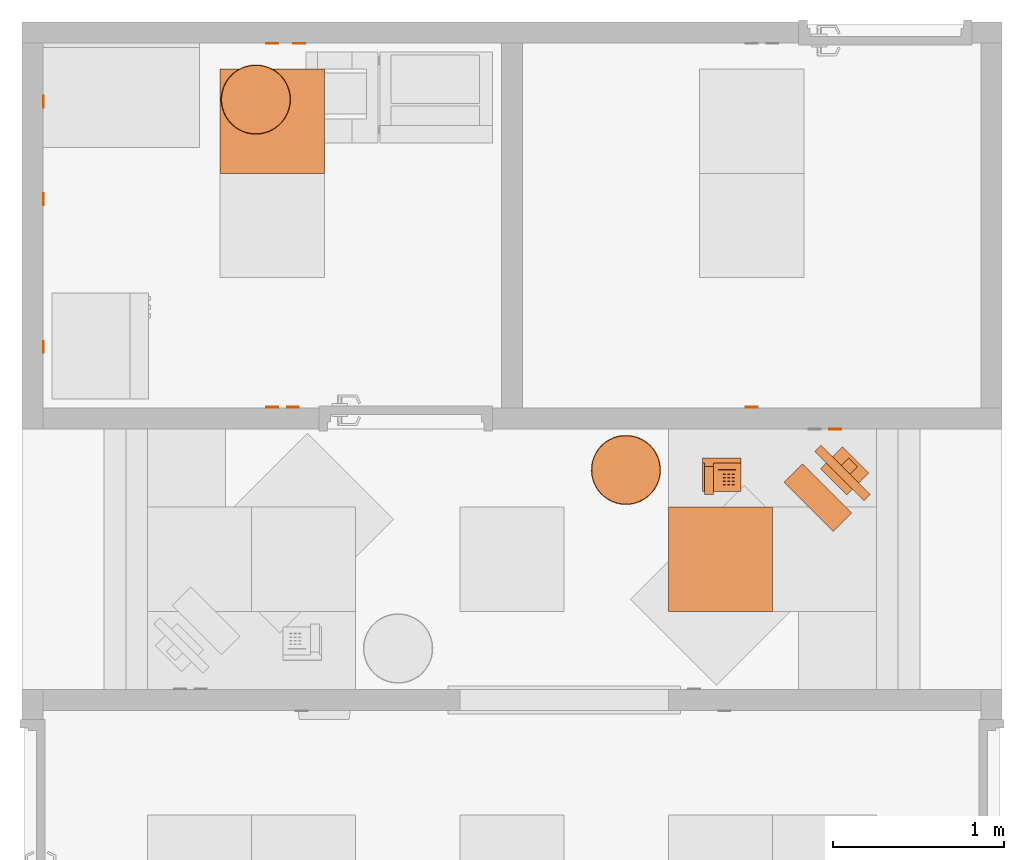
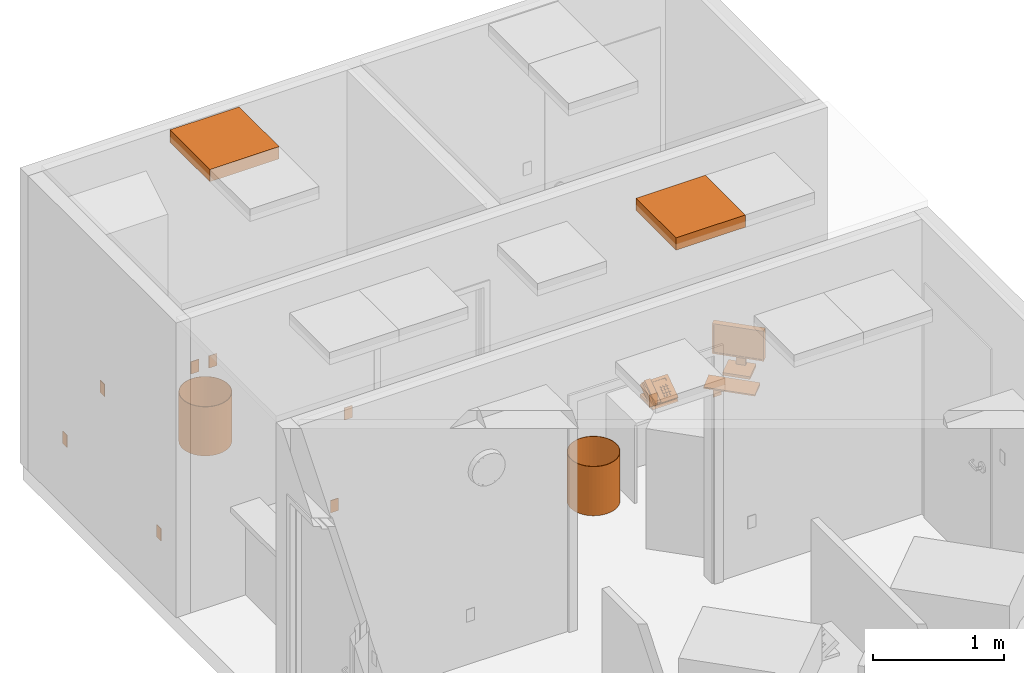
# One storey, part 17 of 20: 15 proxies.
"""IFC2X3 building model written with IfcOpenShell, lengths in feet."""

from ifc_helpers import new_model, entity, si_unit, converted_unit, derived_unit, direction, frame, frame_2d, origin, origin_2d_with_axis, place, context, subcontext, project, spatial, rectangle, circle, hollow_circle, extrude, faceted_brep, source, transform, mapped, type_object, type_shapes, element, save


model = new_model("IFC2X3")

# Units and contexts
model_context = context("Model", 3, precision=0.0001, world=origin(), true_north=direction((6.12303176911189e-17, 1.0)))
body_context = subcontext(model_context, "Body", "Model", "MODEL_VIEW")
ifc_project = project(units=[converted_unit("LENGTHUNIT", "FOOT", entity("IfcRatioMeasure", 0.3048), si_unit("LENGTHUNIT", "METRE"), dimensions=[1, 0, 0, 0, 0, 0, 0]), converted_unit("AREAUNIT", "SQUARE FOOT", entity("IfcRatioMeasure", 0.09290304), si_unit("AREAUNIT", "SQUARE_METRE"), dimensions=[2, 0, 0, 0, 0, 0, 0]), converted_unit("VOLUMEUNIT", "CUBIC FOOT", entity("IfcRatioMeasure", 0.028316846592), si_unit("VOLUMEUNIT", "CUBIC_METRE"), dimensions=[3, 0, 0, 0, 0, 0, 0]), converted_unit("PLANEANGLEUNIT", "DEGREE", entity("IfcRatioMeasure", 0.0174532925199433), si_unit("PLANEANGLEUNIT", "RADIAN"), dimensions=[0, 0, 0, 0, 0, 0, 0]), si_unit("MASSUNIT", "GRAM", prefix="KILO"), derived_unit("MASSDENSITYUNIT", [(si_unit("MASSUNIT", "GRAM", prefix="KILO"), 1), (si_unit("LENGTHUNIT", "METRE"), -3)]), si_unit("TIMEUNIT", "SECOND"), si_unit("FREQUENCYUNIT", "HERTZ"), si_unit("THERMODYNAMICTEMPERATUREUNIT", "DEGREE_CELSIUS"), derived_unit("THERMALTRANSMITTANCEUNIT", [(si_unit("MASSUNIT", "GRAM", prefix="KILO"), 1), (si_unit("THERMODYNAMICTEMPERATUREUNIT", "KELVIN"), -1), (si_unit("TIMEUNIT", "SECOND"), -3)]), derived_unit("VOLUMETRICFLOWRATEUNIT", [(si_unit("LENGTHUNIT", "METRE"), 3), (si_unit("TIMEUNIT", "SECOND"), -1)]), si_unit("ELECTRICCURRENTUNIT", "AMPERE"), si_unit("ELECTRICVOLTAGEUNIT", "VOLT"), si_unit("POWERUNIT", "WATT"), si_unit("FORCEUNIT", "NEWTON"), si_unit("ILLUMINANCEUNIT", "LUX"), si_unit("LUMINOUSFLUXUNIT", "LUMEN"), si_unit("LUMINOUSINTENSITYUNIT", "CANDELA"), derived_unit("USERDEFINED", [(si_unit("MASSUNIT", "GRAM", prefix="KILO"), -1), (si_unit("LENGTHUNIT", "METRE"), -2), (si_unit("TIMEUNIT", "SECOND"), 3), (si_unit("LUMINOUSFLUXUNIT", "LUMEN"), 1)]), derived_unit("LINEARVELOCITYUNIT", [(si_unit("LENGTHUNIT", "METRE"), 1), (si_unit("TIMEUNIT", "SECOND"), -1)]), si_unit("PRESSUREUNIT", "PASCAL"), derived_unit("USERDEFINED", [(si_unit("LENGTHUNIT", "METRE"), -2), (si_unit("MASSUNIT", "GRAM", prefix="KILO"), 1), (si_unit("TIMEUNIT", "SECOND"), -2)])], contexts=[model_context])

# Site, building, storey, space
site_placement = place(None, origin())
site = spatial("IfcSite", under=ifc_project, at=site_placement, Name="Default", CompositionType="ELEMENT")
building_placement = place(site_placement, origin())
building = spatial("IfcBuilding", under=site, at=building_placement, Name="OUTPATIENT / PACT CLINIC (Ch. 265)", CompositionType="ELEMENT")
storey_placement = place(building_placement, origin())
storey = spatial("IfcBuildingStorey", under=building, at=storey_placement, Name="DATUM", CompositionType="ELEMENT", Elevation=0.0)
space_1_placement = place(storey_placement, origin())
space_1 = spatial("IfcSpace", under=storey, at=space_1_placement, CompositionType="ELEMENT", InteriorOrExteriorSpace="INTERNAL")

# Proxies
building_element_proxy_type_1 = type_object("IfcBuildingElementProxyType", Name="A1015 Telephone_Desk Multi-Line", PredefinedType="NOTDEFINED")
shared_shape_1 = source(origin(), body_context, "Body", "Brep", [
    faceted_brep([(0.700520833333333, 0.261320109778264, 0.451787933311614), (0.700520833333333, 0.572560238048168, 0.223329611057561), (0.700520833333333, 0.538332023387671, 0.176698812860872), (0.700520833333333, 0.629478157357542, 0.109798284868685), (0.700520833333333, 0.699689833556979, 0.205455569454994), (0.700520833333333, 0.163563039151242, 0.598968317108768), (0.700520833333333, 0.0904130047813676, 0.494499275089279), (0.700520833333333, 0.225161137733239, 0.400147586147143), (0.532645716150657, 0.261320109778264, 0.451787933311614), (0.532645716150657, 0.225161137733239, 0.400147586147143), (0.532645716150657, 0.0904130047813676, 0.494499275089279), (0.532645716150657, 0.163563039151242, 0.598968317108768), (0.532645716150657, 0.699689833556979, 0.205455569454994), (0.532645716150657, 0.629478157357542, 0.109798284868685), (0.532645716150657, 0.538332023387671, 0.176698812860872), (0.532645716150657, 0.572560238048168, 0.223329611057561)], [[[0, 1, 2, 3, 4, 5, 6, 7]], [[8, 9, 10, 11, 12, 13, 14, 15]], [[1, 0, 8, 15]], [[2, 1, 15, 14]], [[3, 2, 14, 13]], [[4, 3, 13, 12]], [[5, 4, 12, 11]], [[6, 5, 11, 10]], [[7, 6, 10, 9]], [[0, 7, 9, 8]]]),
    faceted_brep([(0.297587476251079, 0.457472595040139, 0.295395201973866), (0.344462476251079, 0.457472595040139, 0.295395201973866), (0.344462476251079, 0.49615327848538, 0.268310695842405), (0.297587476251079, 0.49615327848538, 0.268310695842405), (0.297587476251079, 0.442535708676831, 0.274063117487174), (0.297587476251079, 0.481216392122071, 0.246978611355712), (0.344462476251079, 0.481216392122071, 0.246978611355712), (0.344462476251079, 0.442535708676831, 0.274063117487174)], [[[0, 1, 2, 3]], [[4, 5, 6, 7]], [[1, 0, 4, 7]], [[2, 1, 7, 6]], [[3, 2, 6, 5]], [[0, 3, 5, 4]]]),
    faceted_brep([(0.29758747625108, 0.525735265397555, 0.247597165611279), (0.34446247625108, 0.525735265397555, 0.247597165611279), (0.34446247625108, 0.564415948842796, 0.220512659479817), (0.29758747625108, 0.564415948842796, 0.220512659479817), (0.29758747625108, 0.510798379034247, 0.226265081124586), (0.29758747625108, 0.549479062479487, 0.199180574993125), (0.34446247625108, 0.549479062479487, 0.199180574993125), (0.34446247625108, 0.510798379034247, 0.226265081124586)], [[[0, 1, 2, 3]], [[4, 5, 6, 7]], [[1, 0, 4, 7]], [[2, 1, 7, 6]], [[3, 2, 6, 5]], [[0, 3, 5, 4]]]),
    faceted_brep([(0.214254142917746, 0.525735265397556, 0.247597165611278), (0.261129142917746, 0.525735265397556, 0.247597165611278), (0.261129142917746, 0.564415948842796, 0.220512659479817), (0.214254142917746, 0.564415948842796, 0.220512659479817), (0.214254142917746, 0.510798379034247, 0.226265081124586), (0.214254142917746, 0.549479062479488, 0.199180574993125), (0.261129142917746, 0.549479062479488, 0.199180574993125), (0.261129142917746, 0.510798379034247, 0.226265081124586)], [[[0, 1, 2, 3]], [[4, 5, 6, 7]], [[1, 0, 4, 7]], [[2, 1, 7, 6]], [[3, 2, 6, 5]], [[0, 3, 5, 4]]]),
    faceted_brep([(0.130920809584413, 0.525735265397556, 0.247597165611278), (0.177795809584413, 0.525735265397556, 0.247597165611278), (0.177795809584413, 0.564415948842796, 0.220512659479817), (0.130920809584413, 0.564415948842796, 0.220512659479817), (0.130920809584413, 0.510798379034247, 0.226265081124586), (0.130920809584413, 0.549479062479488, 0.199180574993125), (0.177795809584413, 0.549479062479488, 0.199180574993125), (0.177795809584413, 0.510798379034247, 0.226265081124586)], [[[0, 1, 2, 3]], [[4, 5, 6, 7]], [[1, 0, 4, 7]], [[2, 1, 7, 6]], [[3, 2, 6, 5]], [[0, 3, 5, 4]]]),
    faceted_brep([(0.130920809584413, 0.45747259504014, 0.295395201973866), (0.177795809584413, 0.45747259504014, 0.295395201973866), (0.177795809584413, 0.496153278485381, 0.268310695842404), (0.130920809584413, 0.496153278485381, 0.268310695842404), (0.130920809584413, 0.442535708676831, 0.274063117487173), (0.130920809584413, 0.481216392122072, 0.246978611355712), (0.177795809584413, 0.481216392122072, 0.246978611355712), (0.177795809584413, 0.442535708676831, 0.274063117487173)], [[[0, 1, 2, 3]], [[4, 5, 6, 7]], [[1, 0, 4, 7]], [[2, 1, 7, 6]], [[3, 2, 6, 5]], [[0, 3, 5, 4]]]),
    faceted_brep([(0.214254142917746, 0.389209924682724, 0.343193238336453), (0.261129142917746, 0.389209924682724, 0.343193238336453), (0.261129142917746, 0.427890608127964, 0.316108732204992), (0.214254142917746, 0.427890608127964, 0.316108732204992), (0.214254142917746, 0.374273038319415, 0.321861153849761), (0.214254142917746, 0.412953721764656, 0.2947766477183), (0.261129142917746, 0.412953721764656, 0.2947766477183), (0.261129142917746, 0.374273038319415, 0.321861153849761)], [[[0, 1, 2, 3]], [[4, 5, 6, 7]], [[1, 0, 4, 7]], [[2, 1, 7, 6]], [[3, 2, 6, 5]], [[0, 3, 5, 4]]]),
    faceted_brep([(0.130920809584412, 0.389209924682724, 0.343193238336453), (0.177795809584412, 0.389209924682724, 0.343193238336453), (0.177795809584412, 0.427890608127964, 0.316108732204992), (0.130920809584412, 0.427890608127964, 0.316108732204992), (0.130920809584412, 0.374273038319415, 0.321861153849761), (0.130920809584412, 0.412953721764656, 0.2947766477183), (0.177795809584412, 0.412953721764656, 0.2947766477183), (0.177795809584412, 0.374273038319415, 0.321861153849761)], [[[0, 1, 2, 3]], [[4, 5, 6, 7]], [[1, 0, 4, 7]], [[2, 1, 7, 6]], [[3, 2, 6, 5]], [[0, 3, 5, 4]]]),
    faceted_brep([(0.214254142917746, 0.457472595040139, 0.295395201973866), (0.261129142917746, 0.457472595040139, 0.295395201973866), (0.261129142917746, 0.49615327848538, 0.268310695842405), (0.214254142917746, 0.49615327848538, 0.268310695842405), (0.214254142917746, 0.442535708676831, 0.274063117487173), (0.214254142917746, 0.481216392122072, 0.246978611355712), (0.261129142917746, 0.481216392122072, 0.246978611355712), (0.261129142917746, 0.442535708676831, 0.274063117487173)], [[[0, 1, 2, 3]], [[4, 5, 6, 7]], [[1, 0, 4, 7]], [[2, 1, 7, 6]], [[3, 2, 6, 5]], [[0, 3, 5, 4]]]),
    faceted_brep([(0.297587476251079, 0.389209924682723, 0.343193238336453), (0.344462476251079, 0.389209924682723, 0.343193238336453), (0.344462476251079, 0.427890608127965, 0.316108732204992), (0.297587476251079, 0.427890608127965, 0.316108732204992), (0.297587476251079, 0.374273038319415, 0.321861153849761), (0.297587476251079, 0.412953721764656, 0.294776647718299), (0.344462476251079, 0.412953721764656, 0.294776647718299), (0.344462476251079, 0.374273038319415, 0.321861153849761)], [[[0, 1, 2, 3]], [[4, 5, 6, 7]], [[1, 0, 4, 7]], [[2, 1, 7, 6]], [[3, 2, 6, 5]], [[0, 3, 5, 4]]]),
    faceted_brep([(0.130920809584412, 0.320947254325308, 0.39099127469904), (0.177795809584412, 0.320947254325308, 0.39099127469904), (0.177795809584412, 0.359627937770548, 0.363906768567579), (0.130920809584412, 0.359627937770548, 0.363906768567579), (0.130920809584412, 0.306010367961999, 0.369659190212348), (0.130920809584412, 0.34469105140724, 0.342574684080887), (0.177795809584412, 0.34469105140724, 0.342574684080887), (0.177795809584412, 0.306010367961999, 0.369659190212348)], [[[0, 1, 2, 3]], [[4, 5, 6, 7]], [[1, 0, 4, 7]], [[2, 1, 7, 6]], [[3, 2, 6, 5]], [[0, 3, 5, 4]]]),
    faceted_brep([(0.214254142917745, 0.320947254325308, 0.39099127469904), (0.261129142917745, 0.320947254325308, 0.39099127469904), (0.261129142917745, 0.359627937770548, 0.363906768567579), (0.214254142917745, 0.359627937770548, 0.363906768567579), (0.214254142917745, 0.306010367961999, 0.369659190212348), (0.214254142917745, 0.34469105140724, 0.342574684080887), (0.261129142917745, 0.34469105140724, 0.342574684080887), (0.261129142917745, 0.306010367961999, 0.369659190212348)], [[[0, 1, 2, 3]], [[4, 5, 6, 7]], [[1, 0, 4, 7]], [[2, 1, 7, 6]], [[3, 2, 6, 5]], [[0, 3, 5, 4]]]),
    faceted_brep([(0.297587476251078, 0.320947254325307, 0.390991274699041), (0.344462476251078, 0.320947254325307, 0.390991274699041), (0.344462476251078, 0.359627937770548, 0.363906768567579), (0.297587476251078, 0.359627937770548, 0.363906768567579), (0.297587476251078, 0.306010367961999, 0.369659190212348), (0.297587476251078, 0.34469105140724, 0.342574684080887), (0.344462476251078, 0.34469105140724, 0.342574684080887), (0.344462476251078, 0.306010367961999, 0.369659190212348)], [[[0, 1, 2, 3]], [[4, 5, 6, 7]], [[1, 0, 4, 7]], [[2, 1, 7, 6]], [[3, 2, 6, 5]], [[0, 3, 5, 4]]]),
    faceted_brep([(0.739583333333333, 0.584951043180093, 0.0535656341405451), (0.739583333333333, 0.648788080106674, 0.129643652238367), (0.739583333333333, 0.102686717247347, 0.512027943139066), (0.739583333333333, 0.00709064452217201, 0.375502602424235), (0.739583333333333, 0.416666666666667, 0.0887143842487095), (0.739583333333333, 0.0, 0.0887143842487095), (0.739583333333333, 0.0, 0.0), (0.739583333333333, 0.648788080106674, 0.0), (0.0, 0.416666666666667, 0.0887143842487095), (0.0, 0.00709064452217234, 0.375502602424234), (0.0, 0.102686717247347, 0.512027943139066), (0.0, 0.648788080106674, 0.129643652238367), (0.0, 0.584951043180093, 0.0535656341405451), (0.0, 0.648788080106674, 0.0), (0.0, 0.0, 0.0), (0.0, 0.0, 0.0887143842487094), (0.532645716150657, 0.648788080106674, 0.129643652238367), (0.532645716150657, 0.631984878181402, 0.109618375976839), (0.699312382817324, 0.631984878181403, 0.10961837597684), (0.699312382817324, 0.648788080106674, 0.129643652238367), (0.699312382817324, 0.597591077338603, 0.165492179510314), (0.688147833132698, 0.205080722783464, 0.44033088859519), (0.68766856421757, 0.582470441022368, 0.176079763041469), (0.676024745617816, 0.567349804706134, 0.186667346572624), (0.67289677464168, 0.217573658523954, 0.431583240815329), (0.657645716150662, 0.230066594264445, 0.422835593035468), (0.65691415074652, 0.558715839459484, 0.192712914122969), (0.637803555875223, 0.550081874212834, 0.198758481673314), (0.636812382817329, 0.234639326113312, 0.41963373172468), (0.615979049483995, 0.239212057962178, 0.416431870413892), (0.61597904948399, 0.550081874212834, 0.198758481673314), (0.594154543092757, 0.550081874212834, 0.198758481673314), (0.595145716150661, 0.234639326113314, 0.419633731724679), (0.574312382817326, 0.230066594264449, 0.422835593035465), (0.441208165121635, 0.234600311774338, 0.419661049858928), (0.575043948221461, 0.558715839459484, 0.192712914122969), (0.555933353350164, 0.567349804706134, 0.186667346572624), (0.542406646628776, 0.58491555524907, 0.174367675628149), (0.532645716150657, 0.597591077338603, 0.165492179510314), (0.0978645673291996, 0.234600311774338, 0.419661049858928), (0.0978645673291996, 0.166337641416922, 0.467459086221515), (0.532645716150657, 0.102686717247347, 0.512027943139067), (0.441208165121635, 0.166337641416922, 0.467459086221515), (0.532645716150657, 0.170949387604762, 0.46422990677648), (0.538227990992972, 0.188015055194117, 0.452280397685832), (0.543810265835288, 0.205080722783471, 0.440330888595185), (0.559061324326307, 0.21757365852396, 0.431583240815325), (0.693730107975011, 0.188015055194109, 0.452280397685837), (0.699312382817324, 0.170949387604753, 0.464229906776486), (0.699312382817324, 0.102686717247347, 0.512027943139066), (0.699312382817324, 0.0877498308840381, 0.490695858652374), (0.532645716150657, 0.0877498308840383, 0.490695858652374), (0.0978645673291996, 0.151400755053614, 0.446127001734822), (0.441208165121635, 0.151400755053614, 0.446127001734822), (0.441208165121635, 0.219663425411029, 0.398328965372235), (0.0978645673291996, 0.219663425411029, 0.398328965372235), (0.597435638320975, 0.222563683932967, 0.396298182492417), (0.580728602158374, 0.215973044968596, 0.400912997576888), (0.564021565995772, 0.209382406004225, 0.40552781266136), (0.55245993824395, 0.197506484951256, 0.413843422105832), (0.540898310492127, 0.185630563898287, 0.422159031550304), (0.536626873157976, 0.170300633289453, 0.432893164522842), (0.532645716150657, 0.156012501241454, 0.442897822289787), (0.699312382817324, 0.156012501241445, 0.442897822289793), (0.695331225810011, 0.170300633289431, 0.432893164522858), (0.691059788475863, 0.18563056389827, 0.422159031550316), (0.679498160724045, 0.197506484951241, 0.413843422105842), (0.667936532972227, 0.209382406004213, 0.405527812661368), (0.651229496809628, 0.215973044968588, 0.400912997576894), (0.634522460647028, 0.222563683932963, 0.39629818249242), (0.615979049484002, 0.222563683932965, 0.396298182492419), (0.532645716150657, 0.582654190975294, 0.144160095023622), (0.54428953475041, 0.56753355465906, 0.154747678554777), (0.555933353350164, 0.552412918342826, 0.165335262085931), (0.575043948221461, 0.543778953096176, 0.171380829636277), (0.594154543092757, 0.535144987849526, 0.177426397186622), (0.61597904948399, 0.535144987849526, 0.177426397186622), (0.637803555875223, 0.535144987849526, 0.177426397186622), (0.65691415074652, 0.543778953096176, 0.171380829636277), (0.676024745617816, 0.552412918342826, 0.165335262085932), (0.689551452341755, 0.569978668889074, 0.153035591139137), (0.699312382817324, 0.582654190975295, 0.144160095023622)], [[[0, 1, 2, 3, 4, 5, 6, 7]], [[8, 9, 10, 11, 12, 13, 14, 15]], [[0, 7, 13, 12]], [[0, 12, 11, 16, 17, 18, 19, 1]], [[1, 19, 20]], [[21, 1, 20]], [[2, 1, 21]], [[21, 20, 22]], [[21, 22, 23]], [[23, 24, 21]], [[23, 25, 24]], [[25, 23, 26]], [[25, 26, 27]], [[27, 28, 25]], [[27, 29, 28]], [[29, 27, 30]], [[29, 30, 31]], [[31, 32, 29]], [[31, 33, 32]], [[34, 33, 31]], [[34, 31, 35]], [[34, 35, 36]], [[34, 36, 37]], [[34, 37, 38]], [[38, 39, 34]], [[39, 38, 11]], [[38, 16, 11]], [[39, 11, 10]], [[10, 40, 39]], [[10, 41, 40]], [[40, 41, 42]], [[42, 41, 43]], [[42, 43, 44]], [[42, 44, 45]], [[34, 45, 46]], [[42, 45, 34]], [[34, 46, 33]], [[2, 21, 47]], [[2, 47, 48]], [[2, 48, 49]], [[2, 49, 50, 51, 41, 10, 9, 3]], [[4, 3, 9, 8]], [[5, 4, 8, 15]], [[6, 5, 15, 14]], [[7, 6, 14, 13]], [[52, 53, 54, 55]], [[56, 57, 58, 59, 60, 61, 62, 51, 50, 63, 64, 65, 66, 67, 68, 69, 70]], [[17, 71, 72, 73, 74, 75, 76, 77, 78, 79, 80, 81, 18]], [[52, 40, 42, 53]], [[54, 53, 42, 34]], [[54, 34, 39, 55]], [[55, 39, 40, 52]], [[50, 49, 48, 63]], [[18, 81, 20, 19]], [[64, 63, 48]], [[56, 29, 32]], [[33, 57, 32]], [[66, 24, 67]], [[64, 47, 65]], [[21, 65, 47]], [[28, 68, 25]], [[65, 21, 66]], [[68, 28, 69]], [[47, 64, 48]], [[56, 32, 57]], [[45, 60, 59]], [[45, 59, 46]], [[56, 70, 69, 29]], [[33, 58, 57]], [[45, 44, 60]], [[43, 62, 61]], [[33, 46, 58]], [[24, 66, 21]], [[58, 46, 59]], [[44, 43, 61]], [[24, 25, 67]], [[29, 69, 28]], [[68, 67, 25]], [[61, 60, 44]], [[62, 43, 41, 51]], [[17, 16, 38, 71]], [[73, 72, 71, 38, 37, 36]], [[20, 81, 80, 79, 23, 22]], [[36, 35, 31, 75, 74, 73]], [[77, 76, 75, 31, 30, 27]], [[27, 26, 23, 79, 78, 77]]]),
])
type_shapes(building_element_proxy_type_1, [shared_shape_1])
proxy_1_placement = place(space_1_placement, frame((69.6615646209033, -850.072926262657, 2.49999999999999), z_axis=(0.0, 0.0, 1.0), x_axis=(-1.0, 0.0, 0.0)))
element("IfcBuildingElementProxy", 1, at=proxy_1_placement, inside=space_1, type_object=building_element_proxy_type_1, Name="A1015 - Telephone, Desk, Multiple Line:A1015 Telephone_Desk Multi-Line", ObjectType="A1015 Telephone_Desk Multi-Line", context=body_context, shape_type="MappedRepresentation", body=[
    mapped(shared_shape_1, transform((0.0, 0.0, 0.0), scale=1.0)),
])
building_element_proxy_type_2 = type_object("IfcBuildingElementProxyType", Name="F2000 - Basket, Wastepaper", PredefinedType="NOTDEFINED")
shared_shape_2 = source(origin(), body_context, "Body", "SweptSolid", [
    extrude(circle(Radius=0.666666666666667, at=frame_2d((0.0, -1.07702971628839e-15), x_axis=(1.0, 0.0))), origin(), (0.0, 0.0, 1.0), 0.0104166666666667),
    extrude(hollow_circle(Radius=0.666666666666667, WallThickness=0.0104166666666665, at=frame_2d((0.0, -1.07702971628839e-15), x_axis=(1.0, 0.0))), frame((0.0, 0.0, 0.0104166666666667)), (0.0, 0.0, 1.0), 1.48958333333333),
])
type_shapes(building_element_proxy_type_2, [shared_shape_2])
proxy_2_placement = place(space_1_placement, frame((67.4506271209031, -850.305047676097, 0.0), z_axis=(0.0, 0.0, 1.0), x_axis=(0.0, -1.0, 0.0)))
element("IfcBuildingElementProxy", 2, at=proxy_2_placement, inside=space_1, type_object=building_element_proxy_type_2, Name="F2000 - Basket, Wastepaper:F2000 - Basket, Wastepaper", ObjectType="F2000 - Basket, Wastepaper", context=body_context, shape_type="MappedRepresentation", body=[
    mapped(shared_shape_2, transform((0.0, 0.0, 0.0), scale=1.0)),
])

# Space
space_2_placement = place(storey_placement, origin())
space_2 = spatial("IfcSpace", under=storey, at=space_2_placement, CompositionType="ELEMENT", InteriorOrExteriorSpace="INTERNAL")

# Proxies
proxy_3_placement = place(space_2_placement, frame((60.3474467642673, -843.195672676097, 0.0)))
element("IfcBuildingElementProxy", 3, at=proxy_3_placement, inside=space_2, type_object=building_element_proxy_type_2, Name="F2000 - Basket, Wastepaper:F2000 - Basket, Wastepaper", ObjectType="F2000 - Basket, Wastepaper", context=body_context, shape_type="MappedRepresentation", body=[
    mapped(shared_shape_2, transform((0.0, 0.0, 0.0), scale=1.0)),
])
building_element_proxy_type_3 = type_object("IfcBuildingElementProxyType", Name="M1801 - Computer with Flat Panel Monitor", PredefinedType="NOTDEFINED")
shared_shape_3 = source(origin(), body_context, "Body", "Brep", [
    faceted_brep([(0.666666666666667, -0.5625, 0.0), (0.666666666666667, -0.0624999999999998, 0.0), (0.666666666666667, -0.0624999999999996, 0.0833333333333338), (0.666666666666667, -0.5625, 0.0416666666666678), (-0.666666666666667, -0.5625, 0.0), (-0.666666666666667, -0.5625, 0.0416666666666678), (-0.666666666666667, -0.0624999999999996, 0.0833333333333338), (-0.666666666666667, -0.0624999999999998, 0.0)], [[[0, 1, 2, 3]], [[4, 5, 6, 7]], [[1, 0, 4, 7]], [[2, 1, 7, 6]], [[3, 2, 6, 5]], [[0, 3, 5, 4]]]),
    faceted_brep([(0.666666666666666, 0.437223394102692, 1.41666666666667), (-0.666666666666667, 0.437223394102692, 1.41666666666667), (-0.666666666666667, 0.271109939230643, 1.41666666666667), (0.666666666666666, 0.271109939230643, 1.41666666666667), (0.666666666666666, 0.437223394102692, 0.500000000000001), (0.666666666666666, 0.271109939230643, 0.500000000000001), (-0.666666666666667, 0.271109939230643, 0.500000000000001), (-0.666666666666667, 0.437223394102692, 0.500000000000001), (-0.625, 0.271109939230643, 1.375), (0.625, 0.271109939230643, 1.375), (0.625, 0.271109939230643, 0.541666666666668), (-0.625, 0.271109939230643, 0.541666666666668), (0.625, 0.286812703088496, 1.375), (-0.625, 0.286812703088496, 1.375), (0.625, 0.286812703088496, 0.541666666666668), (-0.625, 0.286812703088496, 0.541666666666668)], [[[0, 1, 2, 3]], [[4, 5, 6, 7]], [[1, 0, 4, 7]], [[2, 1, 7, 6]], [[3, 2, 6, 5], [8, 9, 10, 11]], [[0, 3, 5, 4]], [[12, 9, 8, 13]], [[14, 15, 11, 10]], [[12, 13, 15, 14]], [[13, 8, 11, 15]], [[9, 12, 14, 10]]]),
    faceted_brep([(0.358011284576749, 0.111770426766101, 0.0833333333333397), (0.358011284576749, 0.111770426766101, 0.0), (0.358011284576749, 0.708333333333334, 0.0), (0.358011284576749, 0.708333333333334, 0.0833333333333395), (-0.358011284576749, 0.708333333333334, 0.0833333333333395), (-0.358011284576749, 0.708333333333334, 0.0), (-0.358011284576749, 0.111770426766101, 0.0), (-0.358011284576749, 0.111770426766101, 0.0833333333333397), (0.12128795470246, 0.645556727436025, 0.104166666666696), (0.12128795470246, 0.645556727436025, 0.0833333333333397), (-0.12128795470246, 0.645556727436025, 0.0833333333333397), (-0.12128795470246, 0.645556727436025, 0.104166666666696), (0.12128795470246, 0.645556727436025, 0.958333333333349), (-0.12128795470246, 0.645556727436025, 0.958333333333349), (0.12128795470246, 0.437223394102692, 0.958333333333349), (-0.12128795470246, 0.437223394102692, 0.958333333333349), (0.12128795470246, 0.437223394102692, 0.791666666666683), (-0.12128795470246, 0.437223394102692, 0.791666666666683), (0.12128795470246, 0.562223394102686, 0.791666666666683), (-0.12128795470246, 0.562223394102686, 0.791666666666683), (0.12128795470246, 0.562223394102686, 0.0833333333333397), (-0.12128795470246, 0.562223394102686, 0.0833333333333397)], [[[0, 1, 2, 3]], [[4, 5, 6, 7]], [[8, 9, 10, 11]], [[12, 8, 11, 13]], [[14, 12, 13, 15]], [[16, 14, 15, 17]], [[18, 16, 17, 19]], [[20, 18, 19, 21]], [[0, 3, 4, 7], [9, 20, 21, 10]], [[1, 0, 7, 6]], [[2, 1, 6, 5]], [[3, 2, 5, 4]], [[20, 9, 8, 12, 14, 16, 18]], [[10, 21, 19, 17, 15, 13, 11]]]),
])
type_shapes(building_element_proxy_type_3, [shared_shape_3])
proxy_4_placement = place(space_1_placement, frame((71.3570910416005, -850.615036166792, 2.49999999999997), z_axis=(0.0, 0.0, 1.0), x_axis=(0.707106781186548, -0.707106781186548, 0.0)))
element("IfcBuildingElementProxy", 4, at=proxy_4_placement, inside=space_1, type_object=building_element_proxy_type_3, Name="M1801 - Computer with Flat Panel Monitor:M1801 - Computer with Flat Panel Monitor", ObjectType="M1801 - Computer with Flat Panel Monitor", context=body_context, shape_type="MappedRepresentation", body=[
    mapped(shared_shape_3, transform((0.0, 0.0, 0.0), scale=1.0)),
])
building_element_proxy_type_4 = type_object("IfcBuildingElementProxyType", Name="24\" x 24\"", PredefinedType="NOTDEFINED")
shared_shape_4 = source(origin(), body_context, "Body", "SweptSolid", [
    extrude(rectangle(XDim=2.00000000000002, YDim=2.00000000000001, at=origin_2d_with_axis()), frame((0.0, 0.0, 8.0), z_axis=(0.0, 0.0, 1.0), x_axis=(0.0, 1.0, 0.0)), (0.0, 0.0, 1.0), 0.375),
])
type_shapes(building_element_proxy_type_4, [shared_shape_4])
proxy_5_placement = place(space_2_placement, frame((60.6625509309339, -843.612339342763, 1.0)))
element("IfcBuildingElementProxy", 5, at=proxy_5_placement, inside=space_2, type_object=building_element_proxy_type_4, Name="Supply Diffuser:24\" x 24\"", ObjectType="24\" x 24\"", context=body_context, shape_type="MappedRepresentation", body=[
    mapped(shared_shape_4, transform((0.0, 0.0, 0.0), scale=1.0)),
])
building_element_proxy_type_5 = type_object("IfcBuildingElementProxyType", Name="24\" x 24\"", PredefinedType="NOTDEFINED")
shared_shape_5 = source(origin(), body_context, "Body", "SweptSolid", [
    extrude(rectangle(XDim=2.0, YDim=2.0, at=origin_2d_with_axis()), frame((0.0, 0.0, 8.0)), (0.0, 0.0, 1.0), 0.375),
])
type_shapes(building_element_proxy_type_5, [shared_shape_5])
proxy_6_placement = place(space_1_placement, frame((69.2641134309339, -852.018589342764, 1.0)))
element("IfcBuildingElementProxy", 6, at=proxy_6_placement, inside=space_1, type_object=building_element_proxy_type_5, Name="Return Register:24\" x 24\"", ObjectType="24\" x 24\"", context=body_context, shape_type="MappedRepresentation", body=[
    mapped(shared_shape_5, transform((0.0, 0.0, 0.0), scale=1.0)),
])
building_element_proxy_type_6 = type_object("IfcBuildingElementProxyType", Name="Duplex", PredefinedType="NOTDEFINED")
shared_shape_6 = source(origin(), body_context, "Body", "SweptSolid", [
    extrude(rectangle(XDim=0.0156249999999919, YDim=0.229166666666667, at=origin_2d_with_axis()), frame((0.0, 0.210937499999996, 0.0), z_axis=(0.0, 0.0, 1.0), x_axis=(0.0, 1.0, 0.0)), (0.0, 0.0, 1.0), 0.37500000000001),
])
type_shapes(building_element_proxy_type_6, [shared_shape_6])
for number, where, z_axis, x_axis, name in (
    (7, (60.6625509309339, -841.909214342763, 1.3125), (0.0, 0.0, 1.0), (-1.0, 0.0, 0.0), "Outlet, Duplex, Wall:Duplex"),
    (8, (56.0609884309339, -843.242547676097, 1.3125), (0.0, 0.0, 1.0), (0.0, -1.0, 0.0), "Outlet, Duplex, Wall:Duplex"),
    (9, (56.0609884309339, -847.945672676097, 1.3125), (0.0, 0.0, 1.0), (0.0, -1.0, 0.0), "Outlet, Duplex, Wall:Duplex"),
):
    element("IfcBuildingElementProxy", number, at=place(space_2_placement, frame(where, z_axis=z_axis, x_axis=x_axis)), inside=space_2, type_object=building_element_proxy_type_6, Name=name, ObjectType="Duplex", context=body_context, shape_type="MappedRepresentation", body=[
        mapped(shared_shape_6, transform((0.0, 0.0, 0.0), scale=1.0)),
    ])
proxy_7_placement = place(space_2_placement, frame((60.6625509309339, -849.315464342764, 1.3125)))
element("IfcBuildingElementProxy", 10, at=proxy_7_placement, inside=space_2, type_object=building_element_proxy_type_6, Name="Outlet, Duplex, Wall:Duplex", ObjectType="Duplex", context=body_context, shape_type="MappedRepresentation", body=[
    mapped(shared_shape_6, transform((0.0, 0.0, 0.0), scale=1.0)),
])

# Space
space_3_placement = place(storey_placement, origin())
space_3 = spatial("IfcSpace", under=storey, at=space_3_placement, CompositionType="ELEMENT", InteriorOrExteriorSpace="INTERNAL")

# Proxies
proxy_8_placement = place(space_3_placement, frame((69.8656759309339, -849.315464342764, 1.3125)))
element("IfcBuildingElementProxy", 11, at=proxy_8_placement, inside=space_3, type_object=building_element_proxy_type_6, Name="Outlet, Duplex, Wall:Duplex", ObjectType="Duplex", context=body_context, shape_type="MappedRepresentation", body=[
    mapped(shared_shape_6, transform((0.0, 0.0, 0.0), scale=1.0)),
])
building_element_proxy_type_7 = type_object("IfcBuildingElementProxyType", Name="Telephone/Data", PredefinedType="NOTDEFINED")
shared_shape_7 = source(origin(), body_context, "Body", "SweptSolid", [
    extrude(rectangle(XDim=0.0156249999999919, YDim=0.229166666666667, at=origin_2d_with_axis()), frame((0.0, 0.210937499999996, 0.0), z_axis=(0.0, 0.0, 1.0), x_axis=(0.0, 1.0, 0.0)), (0.0, 0.0, 1.0), 0.375),
])
type_shapes(building_element_proxy_type_7, [shared_shape_7])
proxy_9_placement = place(space_2_placement, frame((56.0609884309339, -845.112339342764, 4.0), z_axis=(0.0, 0.0, 1.0), x_axis=(0.0, -1.0, 0.0)))
element("IfcBuildingElementProxy", 12, at=proxy_9_placement, inside=space_2, type_object=building_element_proxy_type_7, Name="Outlet, Communications:Telephone/Data", ObjectType="Telephone/Data", context=body_context, shape_type="MappedRepresentation", body=[
    mapped(shared_shape_7, transform((0.0, 0.0, 0.0), scale=1.0)),
])
building_element_proxy_type_8 = type_object("IfcBuildingElementProxyType", Name="Single", PredefinedType="NOTDEFINED")
shared_shape_8 = source(origin(), body_context, "Body", "SweptSolid", [
    extrude(rectangle(XDim=0.0156249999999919, YDim=0.229166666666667, at=frame_2d((0.0, -1.11022302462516e-16), x_axis=(1.0, 0.0))), frame((0.0, 0.210937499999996, 0.0), z_axis=(0.0, 0.0, 1.0), x_axis=(0.0, 1.0, 0.0)), (0.0, 0.0, 1.0), 0.37500000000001),
])
type_shapes(building_element_proxy_type_8, [shared_shape_8])
proxy_10_placement = place(space_2_placement, frame((61.0609884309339, -849.315464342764, 4.0)))
element("IfcBuildingElementProxy", 13, at=proxy_10_placement, inside=space_2, type_object=building_element_proxy_type_8, Name="Switch, Single:Single", ObjectType="Single", context=body_context, shape_type="MappedRepresentation", body=[
    mapped(shared_shape_8, transform((0.0, 0.0, 0.0), scale=1.0)),
])
building_element_proxy_type_9 = type_object("IfcBuildingElementProxyType", Name="Duplex", PredefinedType="NOTDEFINED")
shared_shape_9 = source(origin(), body_context, "Body", "SweptSolid", [
    extrude(rectangle(XDim=0.229166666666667, YDim=0.0156249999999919, at=origin_2d_with_axis()), frame((0.0, -0.210937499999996, 0.0), z_axis=(0.0, 0.0, 1.0), x_axis=(-1.0, 0.0, 0.0)), (0.0, 0.0, 1.0), 0.37500000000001),
])
type_shapes(building_element_proxy_type_9, [shared_shape_9])
proxy_11_placement = place(space_1_placement, frame((71.4672384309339, -849.315464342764, 1.3125)))
element("IfcBuildingElementProxy", 14, at=proxy_11_placement, inside=space_1, type_object=building_element_proxy_type_9, Name="Outlet, Duplex, Wall:Duplex", ObjectType="Duplex", context=body_context, shape_type="MappedRepresentation", body=[
    mapped(shared_shape_9, transform((0.0, 0.0, 0.0), scale=1.0)),
])
building_element_proxy_type_10 = type_object("IfcBuildingElementProxyType", Name="Telephone/Data", PredefinedType="NOTDEFINED")
shared_shape_10 = source(origin(), body_context, "Body", "SweptSolid", [
    extrude(rectangle(XDim=0.229166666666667, YDim=0.0156249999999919, at=origin_2d_with_axis()), frame((0.0, -0.210937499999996, 0.0), z_axis=(0.0, 0.0, 1.0), x_axis=(-1.0, 0.0, 0.0)), (0.0, 0.0, 1.0), 0.375),
])
type_shapes(building_element_proxy_type_10, [shared_shape_10])
proxy_12_placement = place(space_2_placement, frame((61.1807800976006, -841.909214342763, 1.3125)))
element("IfcBuildingElementProxy", 15, at=proxy_12_placement, inside=space_2, type_object=building_element_proxy_type_10, Name="Outlet, Communications:Telephone/Data", ObjectType="Telephone/Data", context=body_context, shape_type="MappedRepresentation", body=[
    mapped(shared_shape_10, transform((0.0, 0.0, 0.0), scale=1.0)),
])

save(model, "model.ifc")
